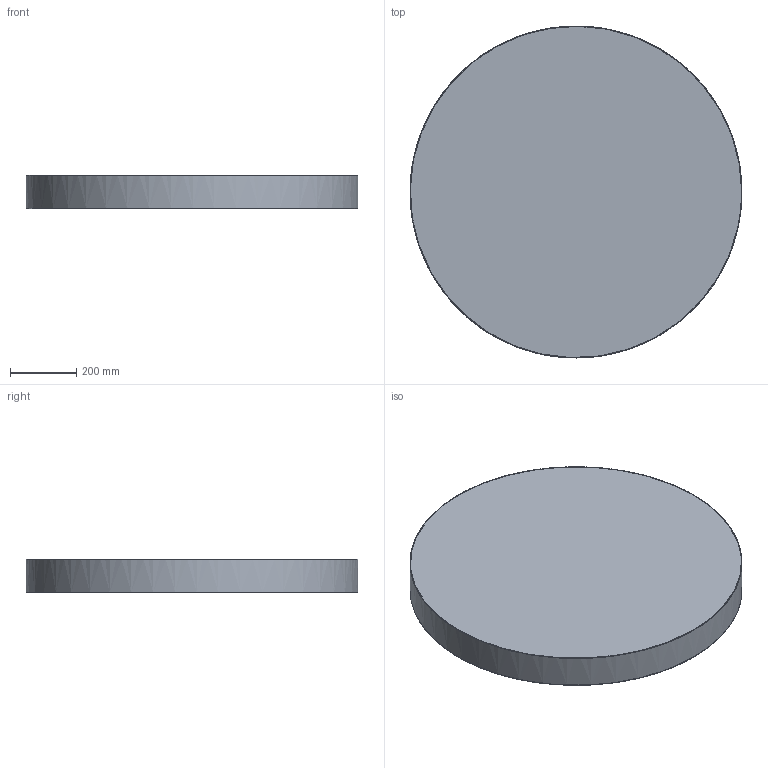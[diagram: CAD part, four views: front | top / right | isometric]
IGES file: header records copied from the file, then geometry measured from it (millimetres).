
Global section: file name: C:\Users\EQUIPO\Desktop\COLECCIONES ACB MODELADAS 3D OK\ISIA\isia-plafon-3453-100-led (IGES).igs; native system: Rhinoceros ( Oct  8 2013 ); preprocessor: Trout Lake IGES 012 Oct  8 2013; date: 190207.120844; units: millimetre
Bounding box: 999.92 x 999.99 x 100 mm (x, y, z)
Surface area: 3993507.3 mm2 (no closed solid volume)
Topology: 0 solids, 0 shells, 12 faces, 200 edges, 197 vertices
Faces by surface type: bspline 12
